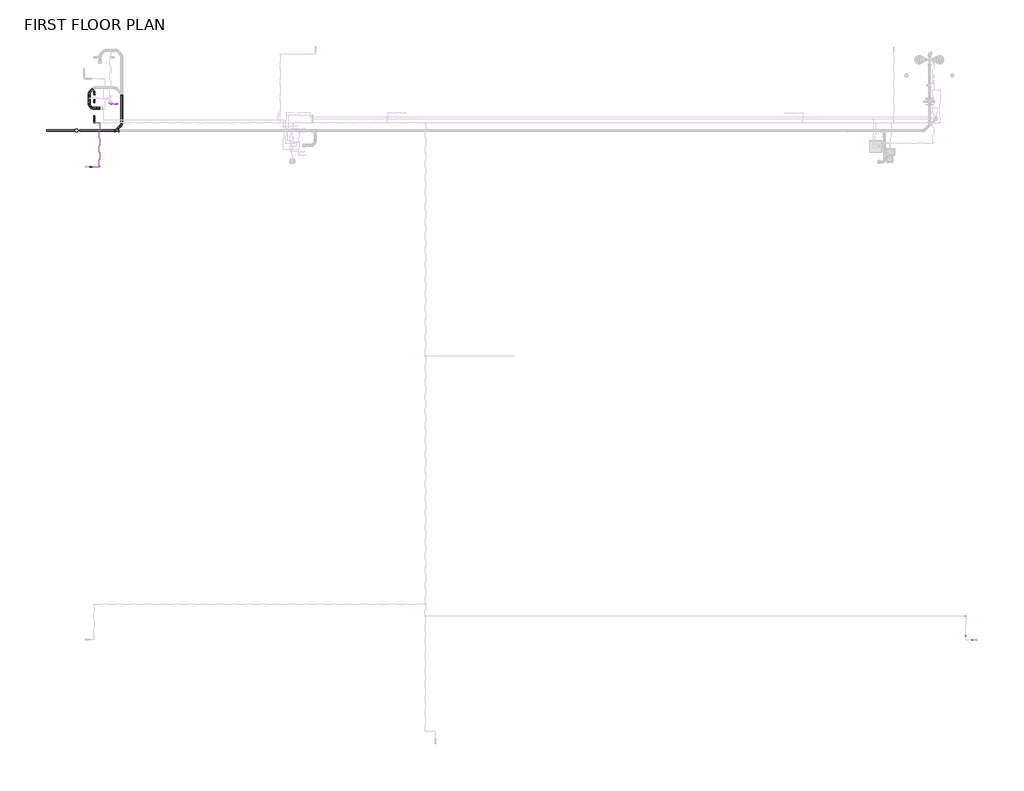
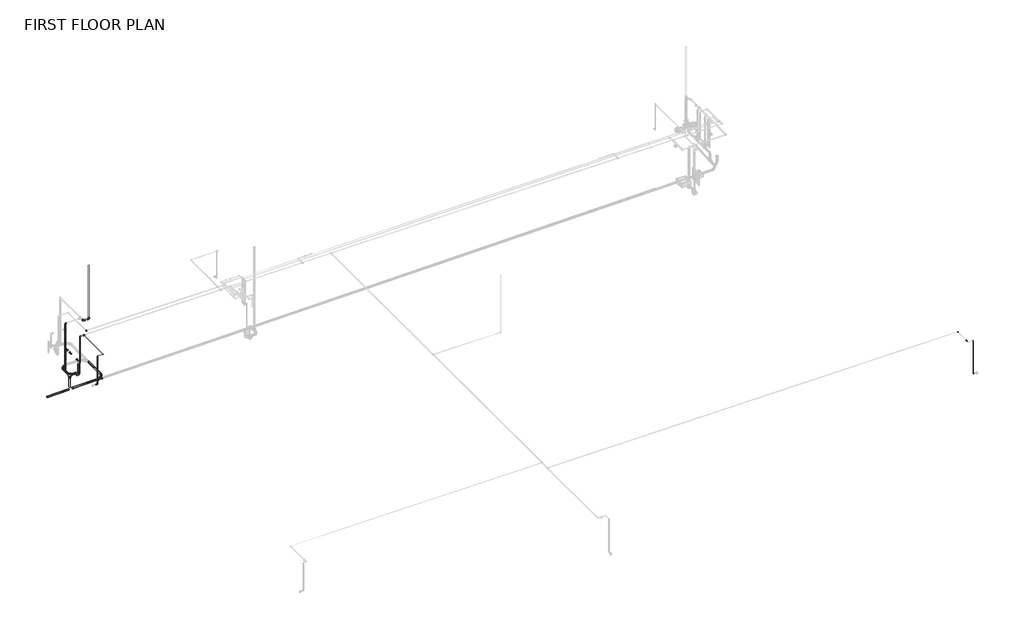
# One storey, part 2 of 9: 30 pipe fittings, 27 pipe segments.
"""IFC4 building model written with IfcOpenShell, lengths in millimetres."""

from ifc_helpers import new_model, si_unit, point, frame, frame_2d, origin, place, context, project, spatial, circle_curve, trimmed, segment, composite_curve, outline, extrude, transform, mapped, element, save
from components import bend_pvc_sch_40_dwv_standard_a4b99d37, bend_pvc_sch_40_dwv_standard_09977113, bend_pvc_sch_40_dwv_standard_85473d5f, bend_pvc_sch_40_dwv_standard_5a2406ae, bend_pvc_sch_40_dwv_standard_c0595f50, bend_pvc_sch_40_dwv_standard_4755b29d, coupling_concentric_reducing_threaded_mi_class_150_standard_0bfa7107, ges_wye_45_deg_reducing_pvc_sch_40_dwv_standard_ed8fe2ce, pipe_elbow_copper_k_764eecca, pipe_elbow_copper_k_feaaf02c, pipe_elbow_copper_k_557be1fc, pipe_elbow_copper_k_c94ec8ca, pipe_elbow_copper_k_b472253f, pipe_tee_copper_k_36278b8a, pipe_transition_copper_k_77c010de, pipe_transition_copper_k_3cb08e53, pipe_transition_copper_k_8e4424fc, pipe_transition_copper_k_7e8567c1, reducer_pvc_sch_40_dwv_standard_07db09cb, standard_b798bd9b, tee_sanitary_pvc_sch_40_dwv_standard_246ccaa4

model = new_model("IFC4")

# Units and contexts
model_context = context("Model", 3, world=origin())
ifc_project = project(units=[si_unit("LENGTHUNIT", "METRE", prefix="MILLI")], contexts=[model_context])

# Site, building, storey
site = spatial("IfcSite", under=ifc_project)
building = spatial("IfcBuilding", under=site)
storey = spatial("IfcBuildingStorey", under=building, Name="FIRST FLOOR PLAN", Elevation=0.0)

# Pipe fittings
placement = place(None, origin())
bend_pvc_sch_40_dwv_standard_shape = bend_pvc_sch_40_dwv_standard_a4b99d37(model_context)
element("IfcPipeFitting", 1, ObjectType="Bend - PVC - Sch 40 - DWV : Standard", at=placement, inside=storey, context=model_context, shape_type="MappedRepresentation", body=[
    mapped(bend_pvc_sch_40_dwv_standard_shape, transform((-12967.606428, 6872.8346554, 3161.3078125), x_axis=(0.0, -0.9999999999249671, -1.2250138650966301e-05), y_axis=(1.0000000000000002, 0.0, 0.0), z_axis=(0.0, -1.2250138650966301e-05, 0.9999999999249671))),
])
element("IfcPipeFitting", 2, ObjectType="Bend - PVC - Sch 40 - DWV : Standard", at=placement, inside=storey, context=model_context, shape_type="MappedRepresentation", body=[
    mapped(bend_pvc_sch_40_dwv_standard_shape, transform((-12535.806428, 6872.8346554, 3161.3078125), x_axis=(1.0, 0.0, 0.0), y_axis=(0.0, 0.0, 1.0), z_axis=(0.0, -1.0, 0.0))),
])
bend_pvc_sch_40_dwv_standard_2_shape = bend_pvc_sch_40_dwv_standard_09977113(model_context)
element("IfcPipeFitting", 3, ObjectType="Bend - PVC - Sch 40 - DWV : Standard", at=placement, inside=storey, context=model_context, shape_type="MappedRepresentation", body=[
    mapped(bend_pvc_sch_40_dwv_standard_2_shape, transform((-14078.9703609, 6602.6810599, -902.2642579), x_axis=(0.7070684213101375, -0.7070684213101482, 0.010416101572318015), y_axis=(0.7071451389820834, 0.7069917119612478, -0.010414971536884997), z_axis=(0.0, 0.014729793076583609, 0.9998915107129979))),
])
bend_pvc_sch_40_dwv_standard_3_shape = bend_pvc_sch_40_dwv_standard_85473d5f(model_context)
element("IfcPipeFitting", 4, ObjectType="Bend - PVC - Sch 40 - DWV : Standard", at=placement, inside=storey, context=model_context, shape_type="MappedRepresentation", body=[
    mapped(bend_pvc_sch_40_dwv_standard_3_shape, transform((-14259.9196959, 6783.6303949, -904.9298934), x_axis=(0.0, -0.9999132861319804, 0.013168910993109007), y_axis=(0.999998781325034, 2.055931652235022e-05, 0.0015610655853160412), z_axis=(-0.001561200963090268, 0.013168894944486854, 0.9999120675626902))),
])
bend_pvc_sch_40_dwv_standard_4_shape = bend_pvc_sch_40_dwv_standard_5a2406ae(model_context)
element("IfcPipeFitting", 5, ObjectType="Bend - PVC - Sch 40 - DWV : Standard", at=placement, inside=storey, context=model_context, shape_type="MappedRepresentation", body=[
    mapped(bend_pvc_sch_40_dwv_standard_4_shape, transform((-14259.9196959, 7571.519794, -914.925492), x_axis=(-0.7070684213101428, -0.7070684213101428, 0.010416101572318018), y_axis=(0.7071370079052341, -0.7070542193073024, 0.005619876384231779), z_axis=(0.0033911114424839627, 0.011339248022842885, 0.9999299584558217))),
])
bend_pvc_sch_40_dwv_standard_5_shape = bend_pvc_sch_40_dwv_standard_c0595f50(model_context)
element("IfcPipeFitting", 6, ObjectType="Bend - PVC - Sch 40 - DWV : Standard", at=placement, inside=storey, context=model_context, shape_type="MappedRepresentation", body=[
    mapped(bend_pvc_sch_40_dwv_standard_5_shape, transform((-12259.2496823, 5587.8685021, -958.1581641), x_axis=(0.707099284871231, 0.7070698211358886, 0.007929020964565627), y_axis=(-0.7071138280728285, 0.7070670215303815, 0.006801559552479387), z_axis=(-0.0007971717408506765, -0.010416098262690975, 0.9999454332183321))),
])
bend_pvc_sch_40_dwv_standard_6_shape = bend_pvc_sch_40_dwv_standard_4755b29d(model_context)
element("IfcPipeFitting", 7, ObjectType="Bend - PVC - Sch 40 - DWV : Standard", at=placement, inside=storey, context=model_context, shape_type="MappedRepresentation", body=[
    mapped(bend_pvc_sch_40_dwv_standard_6_shape, transform((-14259.9101742, 7216.9695777, 3161.3487757), x_axis=(0.0, 0.0, 1.0), y_axis=(1.0, 0.0, 0.0), z_axis=(0.0, 1.0, 0.0))),
])
coupling_concentric_reducing_threaded_mi_class_150_standard_shape = coupling_concentric_reducing_threaded_mi_class_150_standard_0bfa7107(model_context)
element("IfcPipeFitting", 8, ObjectType="Coupling Concentric Reducing - Threaded - MI - Class 150 : Standard", at=placement, inside=storey, context=model_context, shape_type="MappedRepresentation", body=[
    mapped(coupling_concentric_reducing_threaded_mi_class_150_standard_shape, transform((-15039.4302102, 5226.9278226, 0.0), x_axis=(0.0, 0.0, 1.0), y_axis=(-1.0, 0.0, 0.0), z_axis=(0.0, -1.0, 0.0))),
])
ges_wye_45_deg_reducing_pvc_sch_40_dwv_standard_shape = ges_wye_45_deg_reducing_pvc_sch_40_dwv_standard_ed8fe2ce(model_context)
element("IfcPipeFitting", 9, ObjectType="GES Wye 45 Deg Reducing - PVC - Sch 40 - DWV : Standard", at=placement, inside=storey, context=model_context, shape_type="MappedRepresentation", body=[
    mapped(ges_wye_45_deg_reducing_pvc_sch_40_dwv_standard_shape, transform((-12620.2054023, 5226.9278226, -962.2057222), x_axis=(0.9999457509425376, 0.0, 0.010416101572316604), y_axis=(8.29924681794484e-06, -0.9999996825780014, -0.000796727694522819), z_axis=(0.010416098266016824, 0.0007967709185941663, -0.9999454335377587))),
])
pipe_elbow_copper_k_shape = pipe_elbow_copper_k_764eecca(model_context)
element("IfcPipeFitting", 10, ObjectType="Pipe Elbow : Copper- K", at=placement, inside=storey, context=model_context, shape_type="MappedRepresentation", body=[
    mapped(pipe_elbow_copper_k_shape, transform((-13933.0661682, 7642.1354003, 627.85625), x_axis=(0.0, 1.0, 0.0), y_axis=(0.0, 0.0, -1.0), z_axis=(-1.0, 0.0, 0.0))),
])
element("IfcPipeFitting", 11, ObjectType="Pipe Elbow : Copper- K", at=placement, inside=storey, context=model_context, shape_type="MappedRepresentation", body=[
    mapped(pipe_elbow_copper_k_shape, transform((-13933.0661682, 5696.5205406, 627.85625), x_axis=(0.0, -1.0, 0.0), y_axis=(0.0, 0.0, 1.0), z_axis=(-1.0, 0.0, 0.0))),
])
element("IfcPipeFitting", 12, ObjectType="Pipe Elbow : Copper- K", at=placement, inside=storey, context=model_context, shape_type="MappedRepresentation", body=[
    mapped(pipe_elbow_copper_k_shape, transform((-13933.0661682, 5696.5205406, 2847.5440079), x_axis=(0.0, 0.0, 1.0), y_axis=(1.0, 0.0, 0.0), z_axis=(0.0, 1.0, 0.0))),
])
pipe_elbow_copper_k_2_shape = pipe_elbow_copper_k_feaaf02c(model_context)
element("IfcPipeFitting", 13, ObjectType="Pipe Elbow : Copper- K", at=placement, inside=storey, context=model_context, shape_type="MappedRepresentation", body=[
    mapped(pipe_elbow_copper_k_2_shape, transform((-14076.8705081, 2991.7105294, 467.36875), x_axis=(1.0, 0.0, 0.0), y_axis=(0.0, 0.0, 1.0), z_axis=(0.0, -1.0, 0.0))),
])
element("IfcPipeFitting", 14, ObjectType="Pipe Elbow : Copper- K", at=placement, inside=storey, context=model_context, shape_type="MappedRepresentation", body=[
    mapped(pipe_elbow_copper_k_2_shape, transform((40154.8297155, -26150.0092959, 29.36875), x_axis=(-1.0, 0.0, 0.0), y_axis=(0.0, 0.0, 1.0), z_axis=(0.0, 1.0, 0.0))),
])
element("IfcPipeFitting", 15, ObjectType="Pipe Elbow : Copper- K", at=placement, inside=storey, context=model_context, shape_type="MappedRepresentation", body=[
    mapped(pipe_elbow_copper_k_2_shape, transform((40154.8297155, -26150.0092959, 2862.2625), x_axis=(0.0, 0.0, 1.0), y_axis=(-1.0, 0.0, 0.0), z_axis=(0.0, -1.0, 0.0))),
])
element("IfcPipeFitting", 16, ObjectType="Pipe Elbow : Copper- K", at=placement, inside=storey, context=model_context, shape_type="MappedRepresentation", body=[
    mapped(pipe_elbow_copper_k_2_shape, transform((-13616.8703963, 2991.7105295, 2847.5345442), x_axis=(0.9999999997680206, 0.0, -2.153970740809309e-05), y_axis=(3.475317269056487e-10, 0.9999999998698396, 1.6134468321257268e-05), z_axis=(2.153970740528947e-05, -1.6134468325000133e-05, 0.99999999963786))),
])
pipe_elbow_copper_k_3_shape = pipe_elbow_copper_k_557be1fc(model_context)
element("IfcPipeFitting", 17, ObjectType="Pipe Elbow : Copper- K", at=placement, inside=storey, context=model_context, shape_type="MappedRepresentation", body=[
    mapped(pipe_elbow_copper_k_3_shape, transform((-13326.6545177, 5875.2835918, 3007.8164062), x_axis=(0.0, -1.0, 0.0), y_axis=(1.0, 0.0, 0.0), z_axis=(0.0, 0.0, 1.0))),
])
pipe_elbow_copper_k_4_shape = pipe_elbow_copper_k_c94ec8ca(model_context)
element("IfcPipeFitting", 18, ObjectType="Pipe Elbow : Copper- K", at=placement, inside=storey, context=model_context, shape_type="MappedRepresentation", body=[
    mapped(pipe_elbow_copper_k_4_shape, transform((39753.2898627, -24688.6643638, 2862.2840556), x_axis=(0.0, 0.9999999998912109, 1.4750529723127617e-05), y_axis=(-0.9999999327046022, 5.4114704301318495e-09, -0.0003668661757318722), z_axis=(-0.00036686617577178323, -1.4750528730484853e-05, 0.9999999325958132))),
])
pipe_elbow_copper_k_5_shape = pipe_elbow_copper_k_b472253f(model_context)
element("IfcPipeFitting", 19, ObjectType="Pipe Elbow : Copper- K", at=placement, inside=storey, context=model_context, shape_type="MappedRepresentation", body=[
    mapped(pipe_elbow_copper_k_5_shape, transform((-14076.8705081, 2991.7105294, 2847.5444524), x_axis=(0.0, 0.0, 1.0), y_axis=(1.0, 0.0, 0.0), z_axis=(0.0, 1.0, 0.0))),
])
pipe_tee_copper_k_shape = pipe_tee_copper_k_36278b8a(model_context)
element("IfcPipeFitting", 20, ObjectType="Pipe Tee : Copper- K", at=placement, inside=storey, context=model_context, shape_type="MappedRepresentation", body=[
    mapped(pipe_tee_copper_k_shape, transform((-13616.8703963, 5696.5205406, 2847.5440079), x_axis=(1.0, 0.0, 0.0), y_axis=(0.0, 0.9999999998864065, 1.5072722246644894e-05), z_axis=(0.0, -1.5072722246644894e-05, 0.9999999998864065))),
])
pipe_transition_copper_k_shape = pipe_transition_copper_k_77c010de(model_context)
element("IfcPipeFitting", 21, ObjectType="Pipe Transition : Copper- K", at=placement, inside=storey, context=model_context, shape_type="MappedRepresentation", body=[
    mapped(pipe_transition_copper_k_shape, transform((-13933.0661682, 6930.9354003, 627.85625), x_axis=(0.0, 1.0, 0.0), y_axis=(-1.0, 0.0, 0.0), z_axis=(0.0, 0.0, 1.0))),
])
element("IfcPipeFitting", 22, ObjectType="Pipe Transition : Copper- K", at=placement, inside=storey, context=model_context, shape_type="MappedRepresentation", body=[
    mapped(pipe_transition_copper_k_shape, transform((-13933.0661682, 6143.5354003, 627.85625), x_axis=(0.0, -1.0, 0.0), y_axis=(1.0, 0.0, 0.0), z_axis=(0.0, 0.0, 1.0))),
])
pipe_transition_copper_k_2_shape = pipe_transition_copper_k_3cb08e53(model_context)
element("IfcPipeFitting", 23, ObjectType="Pipe Transition : Copper- K", at=placement, inside=storey, context=model_context, shape_type="MappedRepresentation", body=[
    mapped(pipe_transition_copper_k_2_shape, transform((-13933.0661682, 7106.6947909, 627.85625), x_axis=(0.0, 1.0, 0.0), y_axis=(-1.0, 0.0, 0.0), z_axis=(0.0, 0.0, 1.0))),
])
element("IfcPipeFitting", 24, ObjectType="Pipe Transition : Copper- K", at=placement, inside=storey, context=model_context, shape_type="MappedRepresentation", body=[
    mapped(pipe_transition_copper_k_2_shape, transform((-13933.0661682, 7431.3385409, 627.85625), x_axis=(0.0, -1.0, 0.0), y_axis=(1.0, 0.0, 0.0), z_axis=(0.0, 0.0, 1.0))),
])
pipe_transition_copper_k_3_shape = pipe_transition_copper_k_8e4424fc(model_context)
element("IfcPipeFitting", 25, ObjectType="Pipe Transition : Copper- K", at=placement, inside=storey, context=model_context, shape_type="MappedRepresentation", body=[
    mapped(pipe_transition_copper_k_3_shape, transform((-13616.8703963, 5653.6580406, 2847.5433619), x_axis=(0.0, -0.9999999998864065, -1.5072722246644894e-05), y_axis=(1.0, 0.0, 0.0), z_axis=(0.0, -1.5072722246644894e-05, 0.9999999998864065))),
])
pipe_transition_copper_k_4_shape = pipe_transition_copper_k_7e8567c1(model_context)
element("IfcPipeFitting", 26, ObjectType="Pipe Transition : Copper- K", at=placement, inside=storey, context=model_context, shape_type="MappedRepresentation", body=[
    mapped(pipe_transition_copper_k_4_shape, transform((39753.2898627, -25858.6144736, 2862.2667982), x_axis=(0.0, -0.9999999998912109, -1.4750529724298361e-05), y_axis=(1.0, 0.0, 0.0), z_axis=(0.0, -1.4750529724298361e-05, 0.9999999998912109))),
])
element("IfcPipeFitting", 27, ObjectType="Pipe Transition : Copper- K", at=placement, inside=storey, context=model_context, shape_type="MappedRepresentation", body=[
    mapped(pipe_transition_copper_k_4_shape, transform((39753.2898627, -25949.8322236, 2862.2654527), x_axis=(0.0, 0.9999999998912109, 1.4750529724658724e-05), y_axis=(-1.0, 0.0, 0.0), z_axis=(0.0, -1.4750529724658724e-05, 0.9999999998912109))),
])
reducer_pvc_sch_40_dwv_standard_shape = reducer_pvc_sch_40_dwv_standard_07db09cb(model_context)
element("IfcPipeFitting", 28, ObjectType="Reducer - PVC - Sch 40 - DWV : Standard", at=placement, inside=storey, context=model_context, shape_type="MappedRepresentation", body=[
    mapped(reducer_pvc_sch_40_dwv_standard_shape, transform((-14259.9196959, 7216.9640434, -767.7024156), x_axis=(0.0, 0.0, 1.0), y_axis=(0.0, -1.0, 0.0), z_axis=(1.0, 0.0, 0.0))),
])
standard_shape = standard_b798bd9b(model_context)
element("IfcPipeFitting", 29, ObjectType="GES P TRAP PVC Sch 40 - DWV : Standard", at=placement, inside=storey, context=model_context, shape_type="MappedRepresentation", body=[
    mapped(standard_shape, transform((-13505.2565377, 6602.6810599, -902.2642579), x_axis=(0.0, 0.0, -1.0), y_axis=(-1.0, 0.0, 0.0), z_axis=(0.0, 1.0, 0.0))),
])
tee_sanitary_pvc_sch_40_dwv_standard_shape = tee_sanitary_pvc_sch_40_dwv_standard_246ccaa4(model_context)
element("IfcPipeFitting", 30, ObjectType="Tee Sanitary - PVC - Sch 40 - DWV : Standard", at=placement, inside=storey, context=model_context, shape_type="MappedRepresentation", body=[
    mapped(tee_sanitary_pvc_sch_40_dwv_standard_shape, transform((-14259.9196959, 7216.9640434, -910.5774156), x_axis=(0.0, -0.9999202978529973, 0.012625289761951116), y_axis=(0.0, -0.012625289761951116, -0.9999202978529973), z_axis=(1.0, 0.0, 0.0))),
])

# Pipe segments
element("IfcPipeSegment", 31, ObjectType="Cast Iron - VENT", at=placement, inside=storey, context=model_context, shape_type="SweptSolid", body=[
    extrude(outline(composite_curve([segment(trimmed(circle_curve(frame_2d((0.0, 30.1625)), 30.1625), [point((-30.1625, 30.1625))], [point((0.0, 60.325))], False, "CARTESIAN"), True, "CONTINUOUS"), segment(trimmed(circle_curve(frame_2d((0.0, 30.1625)), 30.1625), [point((0.0, 60.325))], [point((30.1625, 30.1625))], False, "CARTESIAN"), True, "CONTINUOUS"), segment(trimmed(circle_curve(frame_2d((0.0, 30.1625)), 30.1625), [point((30.1625, 30.1625))], [point((0.0, 0.0))], False, "CARTESIAN"), True, "CONTINUOUS"), segment(trimmed(circle_curve(frame_2d((0.0, 30.1625)), 30.1625), [point((0.0, 0.0))], [point((-30.1625, 30.1625))], False, "CARTESIAN"), True, "CONTINUOUS")], self_intersect=False)), frame((-14259.9196959, 7186.8015434, -669.2773711), z_axis=(2.5372184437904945e-06, 1.4747196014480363e-06, 0.9999999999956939), x_axis=(0.9999999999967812, -3.7410075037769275e-12, -2.5372184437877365e-06)), (0.0, 0.0, 1.0), 3752.8259914),
])
element("IfcPipeSegment", 32, ObjectType="Cast Iron - VENT", at=placement, inside=storey, context=model_context, shape_type="SweptSolid", body=[
    extrude(outline(composite_curve([segment(trimmed(circle_curve(frame_2d((6872.8346554, 3161.3078125)), 50.403125), [point((6822.4315304, 3161.3078125))], [point((6872.8346554, 3211.7109375))], False, "CARTESIAN"), True, "CONTINUOUS"), segment(trimmed(circle_curve(frame_2d((6872.8346554, 3161.3078125)), 50.403125), [point((6872.8346554, 3211.7109375))], [point((6923.2377804, 3161.3078125))], False, "CARTESIAN"), True, "CONTINUOUS"), segment(trimmed(circle_curve(frame_2d((6872.8346554, 3161.3078125)), 50.403125), [point((6923.2377804, 3161.3078125))], [point((6872.8346554, 3110.9046875))], False, "CARTESIAN"), True, "CONTINUOUS"), segment(trimmed(circle_curve(frame_2d((6872.8346554, 3161.3078125)), 50.403125), [point((6872.8346554, 3110.9046875))], [point((6822.4315304, 3161.3078125))], False, "CARTESIAN"), True, "CONTINUOUS")], self_intersect=False)), frame((-12851.706228, 0.0, 0.0), z_axis=(1.0, 0.0, 0.0), x_axis=(0.0, 1.0, 0.0)), (0.0, 0.0, 1.0), 199.9996),
])
element("IfcPipeSegment", 33, ObjectType="Cast Iron - VENT", at=placement, inside=storey, context=model_context, shape_type="SweptSolid", body=[
    extrude(outline(composite_curve([segment(trimmed(circle_curve(frame_2d((-12535.806428, 6872.8346554)), 50.403125), [point((-12586.209553, 6872.8346554))], [point((-12535.806428, 6923.2377804))], False, "CARTESIAN"), True, "CONTINUOUS"), segment(trimmed(circle_curve(frame_2d((-12535.806428, 6872.8346554)), 50.403125), [point((-12535.806428, 6923.2377804))], [point((-12485.403303, 6872.8346554))], False, "CARTESIAN"), True, "CONTINUOUS"), segment(trimmed(circle_curve(frame_2d((-12535.806428, 6872.8346554)), 50.403125), [point((-12485.403303, 6872.8346554))], [point((-12535.806428, 6822.4315304))], False, "CARTESIAN"), True, "CONTINUOUS"), segment(trimmed(circle_curve(frame_2d((-12535.806428, 6872.8346554)), 50.403125), [point((-12535.806428, 6822.4315304))], [point((-12586.209553, 6872.8346554))], False, "CARTESIAN"), True, "CONTINUOUS")], self_intersect=False)), frame((0.0, 0.0, 3277.2080125), z_axis=(0.0, 0.0, 1.0), x_axis=(1.0, 0.0, 0.0)), (0.0, 0.0, 1.0), 4456.0998),
])
element("IfcPipeSegment", 34, ObjectType="Copper", at=placement, inside=storey, context=model_context, shape_type="SweptSolid", body=[
    extrude(outline(composite_curve([segment(trimmed(circle_curve(frame_2d((627.85625, -13933.0661682)), 26.9875), [point((627.85625, -13906.0786682))], [point((654.84375, -13933.0661682))], False, "CARTESIAN"), True, "CONTINUOUS"), segment(trimmed(circle_curve(frame_2d((627.85625, -13933.0661682)), 26.9875), [point((654.84375, -13933.0661682))], [point((627.85625, -13960.0536682))], False, "CARTESIAN"), True, "CONTINUOUS"), segment(trimmed(circle_curve(frame_2d((627.85625, -13933.0661682)), 26.9875), [point((627.85625, -13960.0536682))], [point((600.86875, -13933.0661682))], False, "CARTESIAN"), True, "CONTINUOUS"), segment(trimmed(circle_curve(frame_2d((627.85625, -13933.0661682)), 26.9875), [point((600.86875, -13933.0661682))], [point((627.85625, -13906.0786682))], False, "CARTESIAN"), True, "CONTINUOUS")], self_intersect=False)), frame((0.0, 7431.3385409, 0.0), z_axis=(0.0, 1.0, 0.0), x_axis=(0.0, 0.0, 1.0)), (0.0, 0.0, 1.0), 174.2843594),
])
element("IfcPipeSegment", 35, ObjectType="Copper", at=placement, inside=storey, context=model_context, shape_type="SweptSolid", body=[
    extrude(outline(composite_curve([segment(trimmed(circle_curve(frame_2d((0.0, 26.9875)), 26.9875), [point((0.0, 53.975))], [point((26.9875, 26.9875))], False, "CARTESIAN"), True, "CONTINUOUS"), segment(trimmed(circle_curve(frame_2d((0.0, 26.9875)), 26.9875), [point((26.9875, 26.9875))], [point((0.0, 0.0))], False, "CARTESIAN"), True, "CONTINUOUS"), segment(trimmed(circle_curve(frame_2d((0.0, 26.9875)), 26.9875), [point((0.0, 0.0))], [point((-26.9875, 26.9875))], False, "CARTESIAN"), True, "CONTINUOUS"), segment(trimmed(circle_curve(frame_2d((0.0, 26.9875)), 26.9875), [point((-26.9875, 26.9875))], [point((0.0, 53.975))], False, "CARTESIAN"), True, "CONTINUOUS")], self_intersect=False)), frame((-13960.0536682, 5733.0330406, 627.85625), z_axis=(1.4645539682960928e-12, 1.0, 0.0), x_axis=(0.0, 0.0, 1.0)), (0.0, 0.0, 1.0), 393.8336097),
])
element("IfcPipeSegment", 36, ObjectType="Copper", at=placement, inside=storey, context=model_context, shape_type="SweptSolid", body=[
    extrude(outline(composite_curve([segment(trimmed(circle_curve(frame_2d((-13933.0661682, 5696.5205406)), 26.9875), [point((-13960.0536682, 5696.5205406))], [point((-13933.0661682, 5723.5080406))], False, "CARTESIAN"), True, "CONTINUOUS"), segment(trimmed(circle_curve(frame_2d((-13933.0661682, 5696.5205406)), 26.9875), [point((-13933.0661682, 5723.5080406))], [point((-13906.0786682, 5696.5205406))], False, "CARTESIAN"), True, "CONTINUOUS"), segment(trimmed(circle_curve(frame_2d((-13933.0661682, 5696.5205406)), 26.9875), [point((-13906.0786682, 5696.5205406))], [point((-13933.0661682, 5669.5330406))], False, "CARTESIAN"), True, "CONTINUOUS"), segment(trimmed(circle_curve(frame_2d((-13933.0661682, 5696.5205406)), 26.9875), [point((-13933.0661682, 5669.5330406))], [point((-13960.0536682, 5696.5205406))], False, "CARTESIAN"), True, "CONTINUOUS")], self_intersect=False)), frame((0.0, 0.0, 1399.7440079), z_axis=(0.0, 0.0, 1.0), x_axis=(1.0, 0.0, 0.0)), (0.0, 0.0, 1.0), 1411.2875),
])
element("IfcPipeSegment", 37, ObjectType="Copper", at=placement, inside=storey, context=model_context, shape_type="SweptSolid", body=[
    extrude(outline(composite_curve([segment(trimmed(circle_curve(frame_2d((627.85625, -13933.0661682)), 26.9875), [point((627.85625, -13906.0786682))], [point((654.84375, -13933.0661682))], False, "CARTESIAN"), True, "CONTINUOUS"), segment(trimmed(circle_curve(frame_2d((627.85625, -13933.0661682)), 26.9875), [point((654.84375, -13933.0661682))], [point((627.85625, -13960.0536682))], False, "CARTESIAN"), True, "CONTINUOUS"), segment(trimmed(circle_curve(frame_2d((627.85625, -13933.0661682)), 26.9875), [point((627.85625, -13960.0536682))], [point((600.86875, -13933.0661682))], False, "CARTESIAN"), True, "CONTINUOUS"), segment(trimmed(circle_curve(frame_2d((627.85625, -13933.0661682)), 26.9875), [point((600.86875, -13933.0661682))], [point((627.85625, -13906.0786682))], False, "CARTESIAN"), True, "CONTINUOUS")], self_intersect=False)), frame((0.0, 6947.6041503, 0.0), z_axis=(0.0, 1.0, 0.0), x_axis=(0.0, 0.0, 1.0)), (0.0, 0.0, 1.0), 159.0906406),
])
element("IfcPipeSegment", 38, ObjectType="Copper", at=placement, inside=storey, context=model_context, shape_type="SweptSolid", body=[
    extrude(outline(composite_curve([segment(trimmed(circle_curve(frame_2d((-13933.0661682, 7642.1354003)), 26.9875), [point((-13906.0786682, 7642.1354003))], [point((-13933.0661682, 7615.1479003))], False, "CARTESIAN"), True, "CONTINUOUS"), segment(trimmed(circle_curve(frame_2d((-13933.0661682, 7642.1354003)), 26.9875), [point((-13933.0661682, 7615.1479003))], [point((-13960.0536682, 7642.1354003))], False, "CARTESIAN"), True, "CONTINUOUS"), segment(trimmed(circle_curve(frame_2d((-13933.0661682, 7642.1354003)), 26.9875), [point((-13960.0536682, 7642.1354003))], [point((-13933.0661682, 7669.1229003))], False, "CARTESIAN"), True, "CONTINUOUS"), segment(trimmed(circle_curve(frame_2d((-13933.0661682, 7642.1354003)), 26.9875), [point((-13933.0661682, 7669.1229003))], [point((-13906.0786682, 7642.1354003))], False, "CARTESIAN"), True, "CONTINUOUS")], self_intersect=False)), frame((0.0, 0.0, 438.11825), z_axis=(0.0, 0.0, 1.0), x_axis=(1.0, 0.0, 0.0)), (0.0, 0.0, 1.0), 153.2255),
])
element("IfcPipeSegment", 39, ObjectType="Copper", at=placement, inside=storey, context=model_context, shape_type="SweptSolid", body=[
    extrude(outline(composite_curve([segment(trimmed(circle_curve(frame_2d((-13933.0661682, 5696.5205406)), 26.9875), [point((-13960.0536682, 5696.5205406))], [point((-13933.0661682, 5723.5080406))], False, "CARTESIAN"), True, "CONTINUOUS"), segment(trimmed(circle_curve(frame_2d((-13933.0661682, 5696.5205406)), 26.9875), [point((-13933.0661682, 5723.5080406))], [point((-13906.0786682, 5696.5205406))], False, "CARTESIAN"), True, "CONTINUOUS"), segment(trimmed(circle_curve(frame_2d((-13933.0661682, 5696.5205406)), 26.9875), [point((-13906.0786682, 5696.5205406))], [point((-13933.0661682, 5669.5330406))], False, "CARTESIAN"), True, "CONTINUOUS"), segment(trimmed(circle_curve(frame_2d((-13933.0661682, 5696.5205406)), 26.9875), [point((-13933.0661682, 5669.5330406))], [point((-13960.0536682, 5696.5205406))], False, "CARTESIAN"), True, "CONTINUOUS")], self_intersect=False)), frame((0.0, 0.0, 664.36875), z_axis=(0.0, 0.0, 1.0), x_axis=(1.0, 0.0, 0.0)), (0.0, 0.0, 1.0), 657.6512579),
])
element("IfcPipeSegment", 40, ObjectType="Copper", at=placement, inside=storey, context=model_context, shape_type="SweptSolid", body=[
    extrude(outline(composite_curve([segment(trimmed(circle_curve(frame_2d((0.0, 11.1125)), 11.1125), [point((-11.1125, 11.1125))], [point((0.0, 22.225))], False, "CARTESIAN"), True, "CONTINUOUS"), segment(trimmed(circle_curve(frame_2d((0.0, 11.1125)), 11.1125), [point((0.0, 22.225))], [point((11.1125, 11.1125))], False, "CARTESIAN"), True, "CONTINUOUS"), segment(trimmed(circle_curve(frame_2d((0.0, 11.1125)), 11.1125), [point((11.1125, 11.1125))], [point((0.0, 0.0))], False, "CARTESIAN"), True, "CONTINUOUS"), segment(trimmed(circle_curve(frame_2d((0.0, 11.1125)), 11.1125), [point((0.0, 0.0))], [point((-11.1125, 11.1125))], False, "CARTESIAN"), True, "CONTINUOUS")], self_intersect=False)), frame((-13637.5081357, 2991.7105295, 2836.4224887), z_axis=(-0.9999999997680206, 0.0, 2.153970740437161e-05), x_axis=(0.0, -1.0, 0.0)), (0.0, 0.0, 1.0), 418.7246673),
])
element("IfcPipeSegment", 41, ObjectType="Copper", at=placement, inside=storey, context=model_context, shape_type="SweptSolid", body=[
    extrude(outline(composite_curve([segment(trimmed(circle_curve(frame_2d((2991.7105294, 467.36875)), 11.1125), [point((2980.5980294, 467.36875))], [point((2991.7105294, 478.48125))], False, "CARTESIAN"), True, "CONTINUOUS"), segment(trimmed(circle_curve(frame_2d((2991.7105294, 467.36875)), 11.1125), [point((2991.7105294, 478.48125))], [point((3002.8230294, 467.36875))], False, "CARTESIAN"), True, "CONTINUOUS"), segment(trimmed(circle_curve(frame_2d((2991.7105294, 467.36875)), 11.1125), [point((3002.8230294, 467.36875))], [point((2991.7105294, 456.25625))], False, "CARTESIAN"), True, "CONTINUOUS"), segment(trimmed(circle_curve(frame_2d((2991.7105294, 467.36875)), 11.1125), [point((2991.7105294, 456.25625))], [point((2980.5980294, 467.36875))], False, "CARTESIAN"), True, "CONTINUOUS")], self_intersect=False)), frame((-14227.6828963, 0.0, 0.0), z_axis=(1.0, 0.0, 0.0), x_axis=(0.0, 1.0, 0.0)), (0.0, 0.0, 1.0), 130.1748882),
])
element("IfcPipeSegment", 42, ObjectType="Copper", at=placement, inside=storey, context=model_context, shape_type="SweptSolid", body=[
    extrude(outline(composite_curve([segment(trimmed(circle_curve(frame_2d((-14076.8705081, 2991.7105294)), 11.1125), [point((-14087.9830081, 2991.7105294))], [point((-14076.8705081, 3002.8230294))], False, "CARTESIAN"), True, "CONTINUOUS"), segment(trimmed(circle_curve(frame_2d((-14076.8705081, 2991.7105294)), 11.1125), [point((-14076.8705081, 3002.8230294))], [point((-14065.7580081, 2991.7105294))], False, "CARTESIAN"), True, "CONTINUOUS"), segment(trimmed(circle_curve(frame_2d((-14076.8705081, 2991.7105294)), 11.1125), [point((-14065.7580081, 2991.7105294))], [point((-14076.8705081, 2980.5980294))], False, "CARTESIAN"), True, "CONTINUOUS"), segment(trimmed(circle_curve(frame_2d((-14076.8705081, 2991.7105294)), 11.1125), [point((-14076.8705081, 2980.5980294))], [point((-14087.9830081, 2991.7105294))], False, "CARTESIAN"), True, "CONTINUOUS")], self_intersect=False)), frame((0.0, 0.0, 488.00625), z_axis=(0.0, 0.0, 1.0), x_axis=(1.0, 0.0, 0.0)), (0.0, 0.0, 1.0), 2338.9002579),
])
element("IfcPipeSegment", 43, ObjectType="Copper", at=placement, inside=storey, context=model_context, shape_type="SweptSolid", body=[
    extrude(outline(composite_curve([segment(trimmed(circle_curve(frame_2d((0.0, -11.1125)), 11.1125), [point((0.0, 0.0))], [point((11.1125, -11.1125))], False, "CARTESIAN"), True, "CONTINUOUS"), segment(trimmed(circle_curve(frame_2d((0.0, -11.1125)), 11.1125), [point((11.1125, -11.1125))], [point((0.0, -22.225))], False, "CARTESIAN"), True, "CONTINUOUS"), segment(trimmed(circle_curve(frame_2d((0.0, -11.1125)), 11.1125), [point((0.0, -22.225))], [point((-11.1125, -11.1125))], False, "CARTESIAN"), True, "CONTINUOUS"), segment(trimmed(circle_curve(frame_2d((0.0, -11.1125)), 11.1125), [point((-11.1125, -11.1125))], [point((0.0, 0.0))], False, "CARTESIAN"), True, "CONTINUOUS")], self_intersect=False)), frame((-13627.9828963, 3012.3480295, 2847.5348771), z_axis=(0.0, 0.9999999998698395, 1.6134468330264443e-05), x_axis=(0.0, 1.6134468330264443e-05, -0.9999999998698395)), (0.0, 0.0, 1.0), 2627.8162609),
])
element("IfcPipeSegment", 44, ObjectType="Copper", at=placement, inside=storey, context=model_context, shape_type="SweptSolid", body=[
    extrude(outline(composite_curve([segment(trimmed(circle_curve(frame_2d((5696.5205406, 2847.5440079)), 26.9875), [point((5669.5330406, 2847.5440079))], [point((5696.5205406, 2874.5315079))], False, "CARTESIAN"), True, "CONTINUOUS"), segment(trimmed(circle_curve(frame_2d((5696.5205406, 2847.5440079)), 26.9875), [point((5696.5205406, 2874.5315079))], [point((5723.5080406, 2847.5440079))], False, "CARTESIAN"), True, "CONTINUOUS"), segment(trimmed(circle_curve(frame_2d((5696.5205406, 2847.5440079)), 26.9875), [point((5723.5080406, 2847.5440079))], [point((5696.5205406, 2820.5565079))], False, "CARTESIAN"), True, "CONTINUOUS"), segment(trimmed(circle_curve(frame_2d((5696.5205406, 2847.5440079)), 26.9875), [point((5696.5205406, 2820.5565079))], [point((5669.5330406, 2847.5440079))], False, "CARTESIAN"), True, "CONTINUOUS")], self_intersect=False)), frame((-13896.5536682, 0.0, 0.0), z_axis=(1.0, 0.0, 0.0), x_axis=(0.0, 1.0, 0.0)), (0.0, 0.0, 1.0), 236.8207719),
])
element("IfcPipeSegment", 45, ObjectType="Copper", at=placement, inside=storey, context=model_context, shape_type="SweptSolid", body=[
    extrude(outline(composite_curve([segment(trimmed(circle_curve(frame_2d((-26150.0092959, 29.36875)), 11.1125), [point((-26138.8967959, 29.36875))], [point((-26150.0092959, 18.25625))], False, "CARTESIAN"), True, "CONTINUOUS"), segment(trimmed(circle_curve(frame_2d((-26150.0092959, 29.36875)), 11.1125), [point((-26150.0092959, 18.25625))], [point((-26161.1217959, 29.36875))], False, "CARTESIAN"), True, "CONTINUOUS"), segment(trimmed(circle_curve(frame_2d((-26150.0092959, 29.36875)), 11.1125), [point((-26161.1217959, 29.36875))], [point((-26150.0092959, 40.48125))], False, "CARTESIAN"), True, "CONTINUOUS"), segment(trimmed(circle_curve(frame_2d((-26150.0092959, 29.36875)), 11.1125), [point((-26150.0092959, 40.48125))], [point((-26138.8967959, 29.36875))], False, "CARTESIAN"), True, "CONTINUOUS")], self_intersect=False)), frame((40175.4672155, 0.0, 0.0), z_axis=(1.0, 0.0, 0.0), x_axis=(0.0, 1.0, 0.0)), (0.0, 0.0, 1.0), 25.3998882),
])
element("IfcPipeSegment", 46, ObjectType="Copper", at=placement, inside=storey, context=model_context, shape_type="SweptSolid", body=[
    extrude(outline(composite_curve([segment(trimmed(circle_curve(frame_2d((40154.8297155, -26150.0092959)), 11.1125), [point((40143.7172155, -26150.0092959))], [point((40154.8297155, -26138.8967959))], False, "CARTESIAN"), True, "CONTINUOUS"), segment(trimmed(circle_curve(frame_2d((40154.8297155, -26150.0092959)), 11.1125), [point((40154.8297155, -26138.8967959))], [point((40165.9422155, -26150.0092959))], False, "CARTESIAN"), True, "CONTINUOUS"), segment(trimmed(circle_curve(frame_2d((40154.8297155, -26150.0092959)), 11.1125), [point((40165.9422155, -26150.0092959))], [point((40154.8297155, -26161.1217959))], False, "CARTESIAN"), True, "CONTINUOUS"), segment(trimmed(circle_curve(frame_2d((40154.8297155, -26150.0092959)), 11.1125), [point((40154.8297155, -26161.1217959))], [point((40143.7172155, -26150.0092959))], False, "CARTESIAN"), True, "CONTINUOUS")], self_intersect=False)), frame((0.0, 0.0, 50.00625), z_axis=(0.0, 0.0, 1.0), x_axis=(1.0, 0.0, 0.0)), (0.0, 0.0, 1.0), 2791.61875),
])
element("IfcPipeSegment", 47, ObjectType="PVC - SAN/STORM", at=placement, inside=storey, context=model_context, shape_type="SweptSolid", body=[
    extrude(outline(composite_curve([segment(trimmed(circle_curve(frame_2d((0.0, -57.15)), 57.15), [point((0.0, 0.0))], [point((57.1499999, -57.15))], False, "CARTESIAN"), True, "CONTINUOUS"), segment(trimmed(circle_curve(frame_2d((0.0, -57.15)), 57.15), [point((57.1499999, -57.15))], [point((0.0, -114.3))], False, "CARTESIAN"), True, "CONTINUOUS"), segment(trimmed(circle_curve(frame_2d((0.0, -57.15)), 57.15), [point((0.0, -114.3))], [point((-57.15, -57.15))], False, "CARTESIAN"), True, "CONTINUOUS"), segment(trimmed(circle_curve(frame_2d((0.0, -57.15)), 57.15), [point((-57.15, -57.15))], [point((0.0, 0.0))], False, "CARTESIAN"), True, "CONTINUOUS")], self_intersect=False)), frame((-16881.620466, 5284.0778226, -1006.5954625), z_axis=(0.9999457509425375, 0.0, 0.010416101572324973), x_axis=(0.010416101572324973, 0.0, -0.9999457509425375)), (0.0, 0.0, 1.0), 1763.5779795),
])
element("IfcPipeSegment", 48, ObjectType="PVC - SAN/STORM", at=placement, inside=storey, context=model_context, shape_type="SweptSolid", body=[
    extrude(outline(composite_curve([segment(trimmed(circle_curve(frame_2d((0.0, -57.15)), 57.15), [point((-57.15, -57.15))], [point((0.0, 0.0))], False, "CARTESIAN"), True, "CONTINUOUS"), segment(trimmed(circle_curve(frame_2d((0.0, -57.15)), 57.15), [point((0.0, 0.0))], [point((57.15, -57.15))], False, "CARTESIAN"), True, "CONTINUOUS"), segment(trimmed(circle_curve(frame_2d((0.0, -57.15)), 57.15), [point((57.15, -57.15))], [point((0.0, -114.3))], False, "CARTESIAN"), True, "CONTINUOUS"), segment(trimmed(circle_curve(frame_2d((0.0, -57.15)), 57.15), [point((0.0, -114.3))], [point((-57.15, -57.15))], False, "CARTESIAN"), True, "CONTINUOUS")], self_intersect=False)), frame((-13505.2565377, 6545.5310599, -973.7010219), z_axis=(0.0, 1.2878693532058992e-05, 0.9999999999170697), x_axis=(-1.0, 0.0, 0.0)), (0.0, 0.0, 1.0), 799.076758),
])
element("IfcPipeSegment", 49, ObjectType="PVC - SAN/STORM", at=placement, inside=storey, context=model_context, shape_type="SweptSolid", body=[
    extrude(outline(composite_curve([segment(trimmed(circle_curve(frame_2d((6602.6810599, -902.2642579)), 57.15), [point((6659.8310599, -902.2642579))], [point((6602.6810599, -959.4142579))], False, "CARTESIAN"), True, "CONTINUOUS"), segment(trimmed(circle_curve(frame_2d((6602.6810599, -902.2642579)), 57.15), [point((6602.6810599, -959.4142579))], [point((6545.5310599, -902.2642579))], False, "CARTESIAN"), True, "CONTINUOUS"), segment(trimmed(circle_curve(frame_2d((6602.6810599, -902.2642579)), 57.15), [point((6545.5310599, -902.2642579))], [point((6602.6810599, -845.1142579))], False, "CARTESIAN"), True, "CONTINUOUS"), segment(trimmed(circle_curve(frame_2d((6602.6810599, -902.2642579)), 57.15), [point((6602.6810599, -845.1142579))], [point((6659.8310599, -902.2642579))], False, "CARTESIAN"), True, "CONTINUOUS")], self_intersect=False)), frame((-13982.1201609, 0.0, 0.0), z_axis=(1.0, 0.0, 0.0), x_axis=(0.0, 1.0, 0.0)), (0.0, 0.0, 1.0), 151.4261232),
])
element("IfcPipeSegment", 50, ObjectType="PVC - SAN/STORM", at=placement, inside=storey, context=model_context, shape_type="SweptSolid", body=[
    extrude(outline(composite_curve([segment(trimmed(circle_curve(frame_2d((0.0, -57.15)), 57.15), [point((57.1469, -56.554752))], [point((0.5952479, -114.2969))], False, "CARTESIAN"), True, "CONTINUOUS"), segment(trimmed(circle_curve(frame_2d((0.0, -57.15)), 57.15), [point((0.5952479, -114.2969))], [point((-57.1469, -57.7452479))], False, "CARTESIAN"), True, "CONTINUOUS"), segment(trimmed(circle_curve(frame_2d((0.0, -57.15)), 57.15), [point((-57.1469, -57.7452479))], [point((-0.5952479, -0.0031))], False, "CARTESIAN"), True, "CONTINUOUS"), segment(trimmed(circle_curve(frame_2d((0.0, -57.15)), 57.15), [point((-0.5952479, -0.0031))], [point((57.1469, -56.554752))], False, "CARTESIAN"), True, "CONTINUOUS")], self_intersect=False)), frame((-14189.1950357, 6713.7475424, -846.7442209), z_axis=(0.7070684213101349, -0.7070684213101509, 0.010416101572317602), x_axis=(0.7071451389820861, 0.7069917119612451, -0.010414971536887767)), (0.0, 0.0, 1.0), 59.0394868),
])
element("IfcPipeSegment", 51, ObjectType="PVC - SAN/STORM", at=placement, inside=storey, context=model_context, shape_type="SweptSolid", body=[
    extrude(outline(composite_curve([segment(trimmed(circle_curve(frame_2d((0.0, 57.15)), 57.15), [point((-57.15, 57.15))], [point((0.0, 114.3))], False, "CARTESIAN"), True, "CONTINUOUS"), segment(trimmed(circle_curve(frame_2d((0.0, 57.15)), 57.15), [point((0.0, 114.3))], [point((57.15, 57.15))], False, "CARTESIAN"), True, "CONTINUOUS"), segment(trimmed(circle_curve(frame_2d((0.0, 57.15)), 57.15), [point((57.15, 57.15))], [point((0.0, 0.0))], False, "CARTESIAN"), True, "CONTINUOUS"), segment(trimmed(circle_curve(frame_2d((0.0, 57.15)), 57.15), [point((0.0, 0.0))], [point((-57.15, 57.15))], False, "CARTESIAN"), True, "CONTINUOUS")], self_intersect=False)), frame((-14259.9196959, 7106.7786, -966.3407285), z_axis=(0.0, -0.9999132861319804, 0.013168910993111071), x_axis=(1.0, 0.0, 0.0)), (0.0, 0.0, 1.0), 223.9036975),
])
element("IfcPipeSegment", 52, ObjectType="PVC - SAN/STORM", at=placement, inside=storey, context=model_context, shape_type="SweptSolid", body=[
    extrude(outline(composite_curve([segment(trimmed(circle_curve(frame_2d((0.0, -57.15)), 57.15), [point((57.15, -57.15))], [point((0.0, -114.3))], False, "CARTESIAN"), True, "CONTINUOUS"), segment(trimmed(circle_curve(frame_2d((0.0, -57.15)), 57.15), [point((0.0, -114.3))], [point((-57.15, -57.15))], False, "CARTESIAN"), True, "CONTINUOUS"), segment(trimmed(circle_curve(frame_2d((0.0, -57.15)), 57.15), [point((-57.15, -57.15))], [point((0.0, 0.0))], False, "CARTESIAN"), True, "CONTINUOUS"), segment(trimmed(circle_curve(frame_2d((0.0, -57.15)), 57.15), [point((0.0, 0.0))], [point((57.15, -57.15))], False, "CARTESIAN"), True, "CONTINUOUS")], self_intersect=False)), frame((-14259.9196959, 7472.2225601, -856.6458299), z_axis=(0.0, -0.9999202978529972, 0.01262528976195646), x_axis=(1.0, 0.0, 0.0)), (0.0, 0.0, 1.0), 111.6822702),
])
element("IfcPipeSegment", 53, ObjectType="PVC - SAN/STORM", at=placement, inside=storey, context=model_context, shape_type="SweptSolid", body=[
    extrude(outline(composite_curve([segment(trimmed(circle_curve(frame_2d((0.0, -57.15)), 57.15), [point((57.1469, -57.7452479))], [point((-0.595248, -114.2969))], False, "CARTESIAN"), True, "CONTINUOUS"), segment(trimmed(circle_curve(frame_2d((0.0, -57.15)), 57.15), [point((-0.595248, -114.2969))], [point((-57.1469001, -56.554752))], False, "CARTESIAN"), True, "CONTINUOUS"), segment(trimmed(circle_curve(frame_2d((0.0, -57.15)), 57.15), [point((-57.1469001, -56.554752))], [point((0.5952479, -0.0031))], False, "CARTESIAN"), True, "CONTINUOUS"), segment(trimmed(circle_curve(frame_2d((0.0, -57.15)), 57.15), [point((0.5952479, -0.0031))], [point((57.1469, -57.7452479))], False, "CARTESIAN"), True, "CONTINUOUS")], self_intersect=False)), frame((-14025.6451011, 7806.6361965, -861.2328829), z_axis=(-0.7070684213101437, -0.707068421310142, 0.010416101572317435), x_axis=(0.7071451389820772, -0.706991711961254, 0.010414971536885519)), (0.0, 0.0, 1.0), 231.3070838),
])
element("IfcPipeSegment", 54, ObjectType="PVC - SAN/STORM", at=placement, inside=storey, context=model_context, shape_type="SweptSolid", body=[
    extrude(outline(composite_curve([segment(trimmed(circle_curve(frame_2d((0.0, 57.1499999)), 57.15), [point((57.15, 57.1499999))], [point((0.0, 0.0))], False, "CARTESIAN"), True, "CONTINUOUS"), segment(trimmed(circle_curve(frame_2d((0.0, 57.1499999)), 57.15), [point((0.0, 0.0))], [point((-57.15, 57.1499999))], False, "CARTESIAN"), True, "CONTINUOUS"), segment(trimmed(circle_curve(frame_2d((0.0, 57.1499999)), 57.15), [point((-57.15, 57.1499999))], [point((0.0, 114.3))], False, "CARTESIAN"), True, "CONTINUOUS"), segment(trimmed(circle_curve(frame_2d((0.0, 57.1499999)), 57.15), [point((0.0, 114.3))], [point((57.15, 57.1499999))], False, "CARTESIAN"), True, "CONTINUOUS")], self_intersect=False)), frame((-12259.2496823, 5687.2929956, -899.9693918), z_axis=(0.0, 0.9999457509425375, 0.010416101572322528), x_axis=(1.0, 0.0, 0.0)), (0.0, 0.0, 1.0), 1723.9223704),
])
element("IfcPipeSegment", 55, ObjectType="PVC - SAN/STORM", at=placement, inside=storey, context=model_context, shape_type="SweptSolid", body=[
    extrude(outline(composite_curve([segment(trimmed(circle_curve(frame_2d((0.0, 57.15)), 57.15), [point((57.1482034, 56.6968518))], [point((-0.4531482, 0.0017966))], False, "CARTESIAN"), True, "CONTINUOUS"), segment(trimmed(circle_curve(frame_2d((0.0, 57.15)), 57.15), [point((-0.4531482, 0.0017966))], [point((-57.1482034, 57.6031482))], False, "CARTESIAN"), True, "CONTINUOUS"), segment(trimmed(circle_curve(frame_2d((0.0, 57.15)), 57.15), [point((-57.1482034, 57.6031482))], [point((0.4531482, 114.2982034))], False, "CARTESIAN"), True, "CONTINUOUS"), segment(trimmed(circle_curve(frame_2d((0.0, 57.15)), 57.15), [point((0.4531482, 114.2982034))], [point((57.1482034, 56.6968518))], False, "CARTESIAN"), True, "CONTINUOUS")], self_intersect=False)), frame((-12479.0625294, 5367.4239793, -903.476617), z_axis=(0.7070992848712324, 0.7070698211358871, 0.007929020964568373), x_axis=(0.7071142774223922, -0.7070548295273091, -0.00792885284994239)), (0.0, 0.0, 1.0), 210.8404052),
])
element("IfcPipeSegment", 56, ObjectType="PVC - SAN/STORM", at=placement, inside=storey, context=model_context, shape_type="SweptSolid", body=[
    extrude(outline(composite_curve([segment(trimmed(circle_curve(frame_2d((-15039.4302102, 5226.9278226)), 57.15), [point((-15096.5802102, 5226.9278226))], [point((-15039.4302102, 5284.0778226))], False, "CARTESIAN"), True, "CONTINUOUS"), segment(trimmed(circle_curve(frame_2d((-15039.4302102, 5226.9278226)), 57.15), [point((-15039.4302102, 5284.0778226))], [point((-14982.2802102, 5226.9278226))], False, "CARTESIAN"), True, "CONTINUOUS"), segment(trimmed(circle_curve(frame_2d((-15039.4302102, 5226.9278226)), 57.15), [point((-14982.2802102, 5226.9278226))], [point((-15039.4302102, 5169.7778226))], False, "CARTESIAN"), True, "CONTINUOUS"), segment(trimmed(circle_curve(frame_2d((-15039.4302102, 5226.9278226)), 57.15), [point((-15039.4302102, 5169.7778226))], [point((-15096.5802102, 5226.9278226))], False, "CARTESIAN"), True, "CONTINUOUS")], self_intersect=False)), frame((0.0, 0.0, -787.7976994), z_axis=(0.0, 0.0, 1.0), x_axis=(1.0, 0.0, 0.0)), (0.0, 0.0, 1.0), 787.7976994),
])
element("IfcPipeSegment", 57, ObjectType="PVC - SAN/STORM", at=placement, inside=storey, context=model_context, shape_type="SweptSolid", body=[
    extrude(outline(composite_curve([segment(trimmed(circle_curve(frame_2d((0.0, -57.15)), 57.15), [point((0.0, 0.0))], [point((57.15, -57.15))], False, "CARTESIAN"), True, "CONTINUOUS"), segment(trimmed(circle_curve(frame_2d((0.0, -57.15)), 57.15), [point((57.15, -57.15))], [point((0.0, -114.3))], False, "CARTESIAN"), True, "CONTINUOUS"), segment(trimmed(circle_curve(frame_2d((0.0, -57.15)), 57.15), [point((0.0, -114.3))], [point((-57.15, -57.15))], False, "CARTESIAN"), True, "CONTINUOUS"), segment(trimmed(circle_curve(frame_2d((0.0, -57.15)), 57.15), [point((-57.15, -57.15))], [point((0.0, 0.0))], False, "CARTESIAN"), True, "CONTINUOUS")], self_intersect=False)), frame((-14829.3756686, 5284.0778226, -985.2179125), z_axis=(0.9999457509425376, 0.0, 0.010416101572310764), x_axis=(0.010416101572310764, 0.0, -0.9999457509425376)), (0.0, 0.0, 1.0), 2130.5778994),
])

save(model, "model.ifc")
